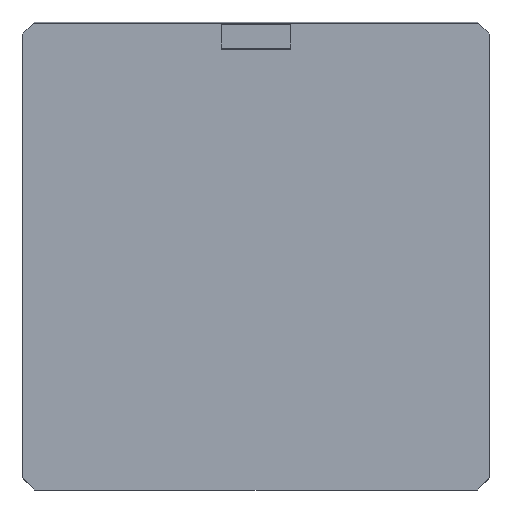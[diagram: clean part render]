
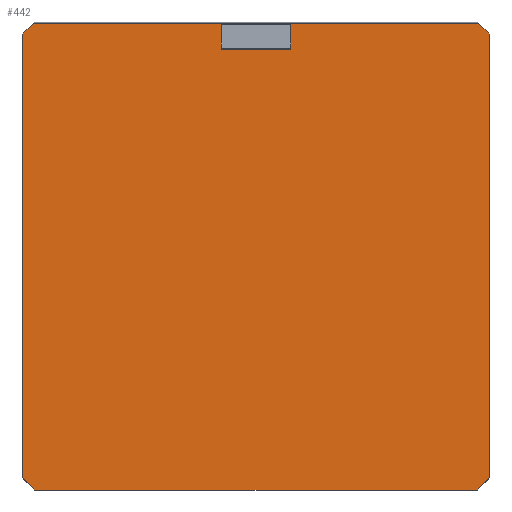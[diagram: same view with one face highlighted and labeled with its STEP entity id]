
A CAD part, top view. The second image highlights one B-rep face of the part: STEP entity #442.
In plain terms, the highlighted planar face has unit normal (0, 0, 1).
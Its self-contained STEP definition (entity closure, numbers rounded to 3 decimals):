
#442 = ADVANCED_FACE( '', ( #1003, #1004 ), #1005, .T. );
#1003 = FACE_BOUND( '', #1895, .T. );
#1004 = FACE_OUTER_BOUND( '', #1896, .T. );
#1005 = PLANE( '', #1897 );
#1895 = EDGE_LOOP( '', ( #3205, #3206, #3207, #3208 ) );
#1896 = EDGE_LOOP( '', ( #3209, #3210, #3211, #3212, #3213, #3214, #3215, #3216 ) );
#1897 = AXIS2_PLACEMENT_3D( '', #3217, #3218, #3219 );
#3205 = ORIENTED_EDGE( '', *, *, #4669, .F. );
#3206 = ORIENTED_EDGE( '', *, *, #4782, .T. );
#3207 = ORIENTED_EDGE( '', *, *, #4663, .T. );
#3208 = ORIENTED_EDGE( '', *, *, #4783, .T. );
#3209 = ORIENTED_EDGE( '', *, *, #4550, .T. );
#3210 = ORIENTED_EDGE( '', *, *, #4410, .T. );
#3211 = ORIENTED_EDGE( '', *, *, #4784, .T. );
#3212 = ORIENTED_EDGE( '', *, *, #4785, .T. );
#3213 = ORIENTED_EDGE( '', *, *, #4569, .T. );
#3214 = ORIENTED_EDGE( '', *, *, #4652, .T. );
#3215 = ORIENTED_EDGE( '', *, *, #4639, .T. );
#3216 = ORIENTED_EDGE( '', *, *, #4543, .T. );
#3217 = CARTESIAN_POINT( '', ( 0., 0., 6.7 ) );
#3218 = DIRECTION( '', ( 0., 0., 1. ) );
#3219 = DIRECTION( '', ( 1., 0., 0. ) );
#4410 = EDGE_CURVE( '', #5311, #5313, #5315, .T. );
#4543 = EDGE_CURVE( '', #5541, #5539, #5542, .T. );
#4550 = EDGE_CURVE( '', #5539, #5311, #5551, .T. );
#4569 = EDGE_CURVE( '', #5581, #5579, #5582, .T. );
#4639 = EDGE_CURVE( '', #5682, #5541, #5684, .T. );
#4652 = EDGE_CURVE( '', #5579, #5682, #5702, .T. );
#4663 = EDGE_CURVE( '', #5719, #5720, #5721, .T. );
#4669 = EDGE_CURVE( '', #5729, #5731, #5732, .T. );
#4782 = EDGE_CURVE( '', #5729, #5719, #5904, .T. );
#4783 = EDGE_CURVE( '', #5720, #5731, #5905, .T. );
#4784 = EDGE_CURVE( '', #5313, #5906, #5907, .T. );
#4785 = EDGE_CURVE( '', #5906, #5581, #5908, .T. );
#5311 = VERTEX_POINT( '', #6694 );
#5313 = VERTEX_POINT( '', #6697 );
#5315 = LINE( '', #6700, #6701 );
#5539 = VERTEX_POINT( '', #7167 );
#5541 = VERTEX_POINT( '', #7170 );
#5542 = LINE( '', #7171, #7172 );
#5551 = LINE( '', #7185, #7186 );
#5579 = VERTEX_POINT( '', #7224 );
#5581 = VERTEX_POINT( '', #7227 );
#5582 = LINE( '', #7228, #7229 );
#5682 = VERTEX_POINT( '', #7377 );
#5684 = LINE( '', #7380, #7381 );
#5702 = LINE( '', #7432, #7433 );
#5719 = VERTEX_POINT( '', #7455 );
#5720 = VERTEX_POINT( '', #7456 );
#5721 = LINE( '', #7457, #7458 );
#5729 = VERTEX_POINT( '', #7469 );
#5731 = VERTEX_POINT( '', #7472 );
#5732 = LINE( '', #7473, #7474 );
#5904 = LINE( '', #7729, #7730 );
#5905 = LINE( '', #7731, #7732 );
#5906 = VERTEX_POINT( '', #7733 );
#5907 = LINE( '', #7734, #7735 );
#5908 = LINE( '', #7736, #7737 );
#6694 = CARTESIAN_POINT( '', ( -119.501, -126.07, 6.7 ) );
#6697 = CARTESIAN_POINT( '', ( 119.501, -126.07, 6.7 ) );
#6700 = CARTESIAN_POINT( '', ( 0., -126.07, 6.7 ) );
#6701 = VECTOR( '', #8363, 1000. );
#7167 = CARTESIAN_POINT( '', ( -126., -119.571, 6.7 ) );
#7170 = CARTESIAN_POINT( '', ( -126., 120.134, 6.7 ) );
#7171 = CARTESIAN_POINT( '', ( -126., 120.134, 6.7 ) );
#7172 = VECTOR( '', #8441, 1000. );
#7185 = CARTESIAN_POINT( '', ( -126., -119.571, 6.7 ) );
#7186 = VECTOR( '', #8446, 1000. );
#7224 = CARTESIAN_POINT( '', ( 120.204, 125.93, 6.7 ) );
#7227 = CARTESIAN_POINT( '', ( 126., 120.134, 6.7 ) );
#7228 = CARTESIAN_POINT( '', ( 126., 120.134, 6.7 ) );
#7229 = VECTOR( '', #8463, 1000. );
#7377 = CARTESIAN_POINT( '', ( -120.204, 125.93, 6.7 ) );
#7380 = CARTESIAN_POINT( '', ( -119.5, 126.634, 6.7 ) );
#7381 = VECTOR( '', #8520, 1000. );
#7432 = CARTESIAN_POINT( '', ( 0., 125.93, 6.7 ) );
#7433 = VECTOR( '', #8530, 1000. );
#7455 = CARTESIAN_POINT( '', ( -18.683, 112., 6.7 ) );
#7456 = CARTESIAN_POINT( '', ( -18.683, 125.8, 6.7 ) );
#7457 = CARTESIAN_POINT( '', ( -18.683, 0., 6.7 ) );
#7458 = VECTOR( '', #8542, 1000. );
#7469 = CARTESIAN_POINT( '', ( 18.683, 112., 6.7 ) );
#7472 = CARTESIAN_POINT( '', ( 18.683, 125.8, 6.7 ) );
#7473 = CARTESIAN_POINT( '', ( 18.683, 0., 6.7 ) );
#7474 = VECTOR( '', #8547, 1000. );
#7729 = CARTESIAN_POINT( '', ( 0., 112., 6.7 ) );
#7730 = VECTOR( '', #8640, 1000. );
#7731 = CARTESIAN_POINT( '', ( 0., 125.8, 6.7 ) );
#7732 = VECTOR( '', #8641, 1000. );
#7733 = CARTESIAN_POINT( '', ( 126., -119.571, 6.7 ) );
#7734 = CARTESIAN_POINT( '', ( 119.5, -126.071, 6.7 ) );
#7735 = VECTOR( '', #8642, 1000. );
#7736 = CARTESIAN_POINT( '', ( 126., -119.571, 6.7 ) );
#7737 = VECTOR( '', #8643, 1000. );
#8363 = DIRECTION( '', ( 1., 0., 0. ) );
#8441 = DIRECTION( '', ( 0., -1., 0. ) );
#8446 = DIRECTION( '', ( 0.707, -0.707, 0. ) );
#8463 = DIRECTION( '', ( -0.707, 0.707, 0. ) );
#8520 = DIRECTION( '', ( -0.707, -0.707, 0. ) );
#8530 = DIRECTION( '', ( -1., 0., 0. ) );
#8542 = DIRECTION( '', ( 0., 1., 0. ) );
#8547 = DIRECTION( '', ( 0., 1., 0. ) );
#8640 = DIRECTION( '', ( -1., 0., 0. ) );
#8641 = DIRECTION( '', ( 1., 0., 0. ) );
#8642 = DIRECTION( '', ( 0.707, 0.707, 0. ) );
#8643 = DIRECTION( '', ( 0., 1., 0. ) );
